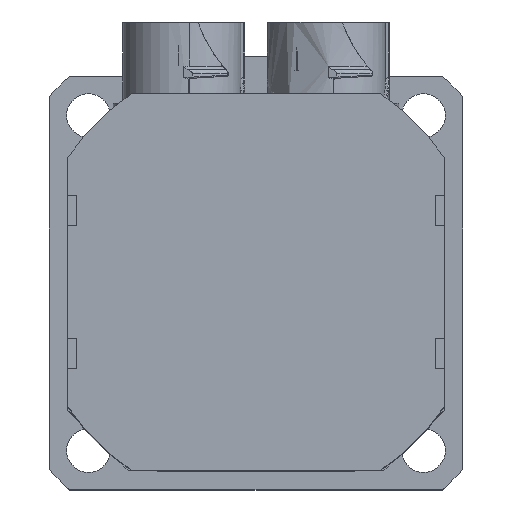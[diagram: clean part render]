
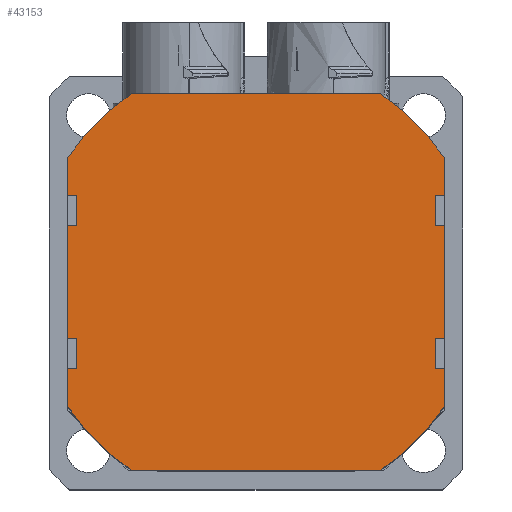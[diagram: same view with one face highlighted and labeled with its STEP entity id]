
A CAD part, top view. The second image highlights one B-rep face of the part: STEP entity #43153.
In plain terms, the highlighted planar face has unit normal (0, 0, 1).
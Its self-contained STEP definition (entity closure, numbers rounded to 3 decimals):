
#6802=LINE('',#55163,#50732);
#6803=LINE('',#55166,#50733);
#6804=LINE('',#55168,#50734);
#6805=LINE('',#55170,#50735);
#6806=LINE('',#55174,#50736);
#6807=LINE('',#55178,#50737);
#6808=LINE('',#55180,#50738);
#6809=LINE('',#55182,#50739);
#6810=LINE('',#55184,#50740);
#6811=LINE('',#55186,#50741);
#6812=LINE('',#55188,#50742);
#6813=LINE('',#55190,#50743);
#6814=LINE('',#55192,#50744);
#6815=LINE('',#55194,#50745);
#6816=LINE('',#55198,#50746);
#6817=LINE('',#55202,#50747);
#6818=LINE('',#55204,#50748);
#6819=LINE('',#55206,#50749);
#6820=LINE('',#55208,#50750);
#6821=LINE('',#55210,#50751);
#10860=VERTEX_POINT('',#55164);
#10861=VERTEX_POINT('',#55165);
#10862=VERTEX_POINT('',#55167);
#10863=VERTEX_POINT('',#55169);
#10864=VERTEX_POINT('',#55171);
#10865=VERTEX_POINT('',#55173);
#10866=VERTEX_POINT('',#55175);
#10867=VERTEX_POINT('',#55177);
#10868=VERTEX_POINT('',#55179);
#10869=VERTEX_POINT('',#55181);
#10870=VERTEX_POINT('',#55183);
#10871=VERTEX_POINT('',#55185);
#10872=VERTEX_POINT('',#55187);
#10873=VERTEX_POINT('',#55189);
#10874=VERTEX_POINT('',#55191);
#10875=VERTEX_POINT('',#55193);
#10876=VERTEX_POINT('',#55195);
#10877=VERTEX_POINT('',#55197);
#10878=VERTEX_POINT('',#55199);
#10879=VERTEX_POINT('',#55201);
#10880=VERTEX_POINT('',#55203);
#10881=VERTEX_POINT('',#55205);
#10882=VERTEX_POINT('',#55207);
#10883=VERTEX_POINT('',#55209);
#14923=CIRCLE('',#46399,30.);
#14924=CIRCLE('',#46400,30.);
#14925=CIRCLE('',#46401,30.);
#14926=CIRCLE('',#46402,30.);
#17133=EDGE_CURVE('',#10860,#10861,#6802,.T.);
#17134=EDGE_CURVE('',#10862,#10860,#6803,.T.);
#17135=EDGE_CURVE('',#10863,#10862,#6804,.T.);
#17136=EDGE_CURVE('',#10864,#10863,#6805,.T.);
#17137=EDGE_CURVE('',#10865,#10864,#14923,.T.);
#17138=EDGE_CURVE('',#10866,#10865,#6806,.T.);
#17139=EDGE_CURVE('',#10867,#10866,#14924,.T.);
#17140=EDGE_CURVE('',#10868,#10867,#6807,.T.);
#17141=EDGE_CURVE('',#10869,#10868,#6808,.T.);
#17142=EDGE_CURVE('',#10870,#10869,#6809,.T.);
#17143=EDGE_CURVE('',#10871,#10870,#6810,.T.);
#17144=EDGE_CURVE('',#10872,#10871,#6811,.T.);
#17145=EDGE_CURVE('',#10873,#10872,#6812,.T.);
#17146=EDGE_CURVE('',#10874,#10873,#6813,.T.);
#17147=EDGE_CURVE('',#10875,#10874,#6814,.T.);
#17148=EDGE_CURVE('',#10876,#10875,#6815,.T.);
#17149=EDGE_CURVE('',#10877,#10876,#14925,.T.);
#17150=EDGE_CURVE('',#10878,#10877,#6816,.T.);
#17151=EDGE_CURVE('',#10879,#10878,#14926,.T.);
#17152=EDGE_CURVE('',#10880,#10879,#6817,.T.);
#17153=EDGE_CURVE('',#10881,#10880,#6818,.T.);
#17154=EDGE_CURVE('',#10882,#10881,#6819,.T.);
#17155=EDGE_CURVE('',#10883,#10882,#6820,.T.);
#17156=EDGE_CURVE('',#10861,#10883,#6821,.T.);
#23894=ORIENTED_EDGE('',*,*,#17133,.F.);
#23895=ORIENTED_EDGE('',*,*,#17134,.F.);
#23896=ORIENTED_EDGE('',*,*,#17135,.F.);
#23897=ORIENTED_EDGE('',*,*,#17136,.F.);
#23898=ORIENTED_EDGE('',*,*,#17137,.F.);
#23899=ORIENTED_EDGE('',*,*,#17138,.F.);
#23900=ORIENTED_EDGE('',*,*,#17139,.F.);
#23901=ORIENTED_EDGE('',*,*,#17140,.F.);
#23902=ORIENTED_EDGE('',*,*,#17141,.F.);
#23903=ORIENTED_EDGE('',*,*,#17142,.F.);
#23904=ORIENTED_EDGE('',*,*,#17143,.F.);
#23905=ORIENTED_EDGE('',*,*,#17144,.F.);
#23906=ORIENTED_EDGE('',*,*,#17145,.F.);
#23907=ORIENTED_EDGE('',*,*,#17146,.F.);
#23908=ORIENTED_EDGE('',*,*,#17147,.F.);
#23909=ORIENTED_EDGE('',*,*,#17148,.F.);
#23910=ORIENTED_EDGE('',*,*,#17149,.F.);
#23911=ORIENTED_EDGE('',*,*,#17150,.F.);
#23912=ORIENTED_EDGE('',*,*,#17151,.F.);
#23913=ORIENTED_EDGE('',*,*,#17152,.F.);
#23914=ORIENTED_EDGE('',*,*,#17153,.F.);
#23915=ORIENTED_EDGE('',*,*,#17154,.F.);
#23916=ORIENTED_EDGE('',*,*,#17155,.F.);
#23917=ORIENTED_EDGE('',*,*,#17156,.F.);
#36589=EDGE_LOOP('',(#23894,#23895,#23896,#23897,#23898,#23899,#23900,#23901,
#23902,#23903,#23904,#23905,#23906,#23907,#23908,#23909,#23910,#23911,#23912,
#23913,#23914,#23915,#23916,#23917));
#39883=FACE_BOUND('',#36589,.T.);
#43153=ADVANCED_FACE('',(#39883),#53102,.T.);
#46398=AXIS2_PLACEMENT_3D('',#55162,#138831,$);
#46399=AXIS2_PLACEMENT_3D('',#55172,#138836,#138837);
#46400=AXIS2_PLACEMENT_3D('',#55176,#138839,#138840);
#46401=AXIS2_PLACEMENT_3D('',#55196,#138850,#138851);
#46402=AXIS2_PLACEMENT_3D('',#55200,#138853,#138854);
#50732=VECTOR('',#138832,1.);
#50733=VECTOR('',#138833,1.);
#50734=VECTOR('',#138834,1.);
#50735=VECTOR('',#138835,1.);
#50736=VECTOR('',#138838,1.);
#50737=VECTOR('',#138841,1.);
#50738=VECTOR('',#138842,1.);
#50739=VECTOR('',#138843,1.);
#50740=VECTOR('',#138844,1.);
#50741=VECTOR('',#138845,1.);
#50742=VECTOR('',#138846,1.);
#50743=VECTOR('',#138847,1.);
#50744=VECTOR('',#138848,1.);
#50745=VECTOR('',#138849,1.);
#50746=VECTOR('',#138852,1.);
#50747=VECTOR('',#138855,1.);
#50748=VECTOR('',#138856,1.);
#50749=VECTOR('',#138857,1.);
#50750=VECTOR('',#138858,1.);
#50751=VECTOR('',#138859,1.);
#53102=PLANE('',#46398);
#55162=CARTESIAN_POINT('',(0.,0.,19.5));
#55163=CARTESIAN_POINT('',(23.8,7.5,19.5));
#55164=CARTESIAN_POINT('',(23.8,7.5,19.5));
#55165=CARTESIAN_POINT('',(25.,7.5,19.5));
#55166=CARTESIAN_POINT('',(23.8,11.5,19.5));
#55167=CARTESIAN_POINT('',(23.8,11.5,19.5));
#55168=CARTESIAN_POINT('',(25.,11.5,19.5));
#55169=CARTESIAN_POINT('',(25.,11.5,19.5));
#55170=CARTESIAN_POINT('',(25.,16.583,19.5));
#55171=CARTESIAN_POINT('',(25.,16.583,19.5));
#55172=CARTESIAN_POINT('',(0.,0.,19.5));
#55173=CARTESIAN_POINT('',(16.583,25.,19.5));
#55174=CARTESIAN_POINT('',(-16.583,25.,19.5));
#55175=CARTESIAN_POINT('',(-16.583,25.,19.5));
#55176=CARTESIAN_POINT('',(0.,0.,19.5));
#55177=CARTESIAN_POINT('',(-25.,16.583,19.5));
#55178=CARTESIAN_POINT('',(-25.,11.5,19.5));
#55179=CARTESIAN_POINT('',(-25.,11.5,19.5));
#55180=CARTESIAN_POINT('',(-23.8,11.5,19.5));
#55181=CARTESIAN_POINT('',(-23.8,11.5,19.5));
#55182=CARTESIAN_POINT('',(-23.8,7.5,19.5));
#55183=CARTESIAN_POINT('',(-23.8,7.5,19.5));
#55184=CARTESIAN_POINT('',(-25.,7.5,19.5));
#55185=CARTESIAN_POINT('',(-25.,7.5,19.5));
#55186=CARTESIAN_POINT('',(-25.,-7.5,19.5));
#55187=CARTESIAN_POINT('',(-25.,-7.5,19.5));
#55188=CARTESIAN_POINT('',(-23.8,-7.5,19.5));
#55189=CARTESIAN_POINT('',(-23.8,-7.5,19.5));
#55190=CARTESIAN_POINT('',(-23.8,-11.5,19.5));
#55191=CARTESIAN_POINT('',(-23.8,-11.5,19.5));
#55192=CARTESIAN_POINT('',(-25.,-11.5,19.5));
#55193=CARTESIAN_POINT('',(-25.,-11.5,19.5));
#55194=CARTESIAN_POINT('',(-25.,-16.583,19.5));
#55195=CARTESIAN_POINT('',(-25.,-16.583,19.5));
#55196=CARTESIAN_POINT('',(0.,0.,19.5));
#55197=CARTESIAN_POINT('',(-16.583,-25.,19.5));
#55198=CARTESIAN_POINT('',(16.583,-25.,19.5));
#55199=CARTESIAN_POINT('',(16.583,-25.,19.5));
#55200=CARTESIAN_POINT('',(0.,0.,19.5));
#55201=CARTESIAN_POINT('',(25.,-16.583,19.5));
#55202=CARTESIAN_POINT('',(25.,-11.5,19.5));
#55203=CARTESIAN_POINT('',(25.,-11.5,19.5));
#55204=CARTESIAN_POINT('',(23.8,-11.5,19.5));
#55205=CARTESIAN_POINT('',(23.8,-11.5,19.5));
#55206=CARTESIAN_POINT('',(23.8,-7.5,19.5));
#55207=CARTESIAN_POINT('',(23.8,-7.5,19.5));
#55208=CARTESIAN_POINT('',(25.,-7.5,19.5));
#55209=CARTESIAN_POINT('',(25.,-7.5,19.5));
#55210=CARTESIAN_POINT('',(25.,7.5,19.5));
#138831=DIRECTION('',(0.,0.,1.));
#138832=DIRECTION('',(1.,0.,0.));
#138833=DIRECTION('',(0.,-1.,0.));
#138834=DIRECTION('',(-1.,0.,0.));
#138835=DIRECTION('',(0.,-1.,0.));
#138836=DIRECTION('',(0.,0.,-1.));
#138837=DIRECTION('',(30.,0.,0.));
#138838=DIRECTION('',(1.,0.,0.));
#138839=DIRECTION('',(0.,0.,-1.));
#138840=DIRECTION('',(30.,0.,0.));
#138841=DIRECTION('',(0.,1.,0.));
#138842=DIRECTION('',(-1.,0.,0.));
#138843=DIRECTION('',(0.,1.,0.));
#138844=DIRECTION('',(1.,0.,0.));
#138845=DIRECTION('',(0.,1.,0.));
#138846=DIRECTION('',(-1.,0.,0.));
#138847=DIRECTION('',(0.,1.,0.));
#138848=DIRECTION('',(1.,0.,0.));
#138849=DIRECTION('',(0.,1.,0.));
#138850=DIRECTION('',(0.,0.,-1.));
#138851=DIRECTION('',(30.,0.,0.));
#138852=DIRECTION('',(-1.,0.,0.));
#138853=DIRECTION('',(0.,0.,-1.));
#138854=DIRECTION('',(30.,0.,0.));
#138855=DIRECTION('',(0.,-1.,0.));
#138856=DIRECTION('',(1.,0.,0.));
#138857=DIRECTION('',(0.,-1.,0.));
#138858=DIRECTION('',(-1.,0.,0.));
#138859=DIRECTION('',(0.,-1.,0.));
